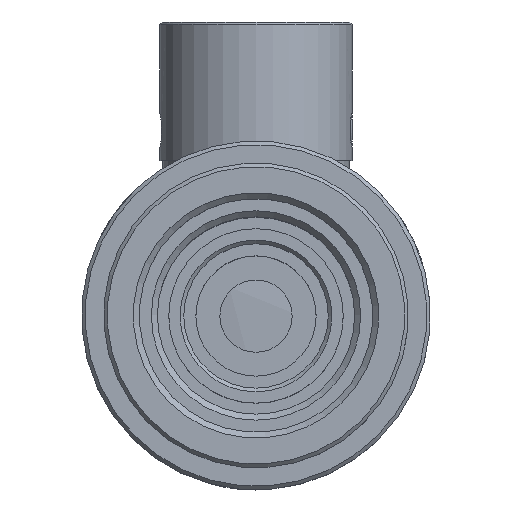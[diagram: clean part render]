
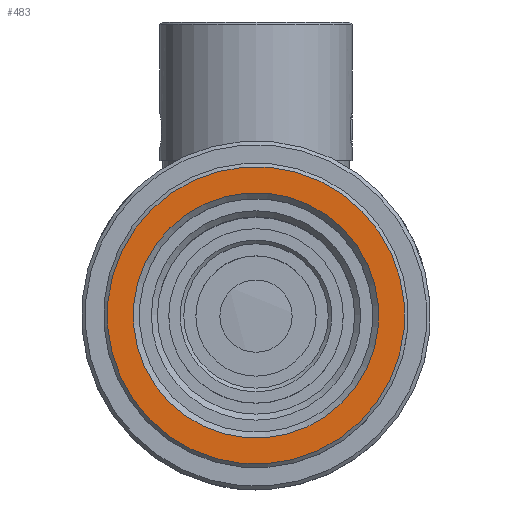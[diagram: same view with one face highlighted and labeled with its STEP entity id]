
A CAD part, top view. The second image highlights one B-rep face of the part: STEP entity #483.
In plain terms, the highlighted planar face has unit normal (0, 0, 1).
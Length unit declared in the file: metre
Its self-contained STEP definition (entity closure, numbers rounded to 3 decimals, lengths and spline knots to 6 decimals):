
#483=ADVANCED_FACE('1:6012',(#1322,#1323),#1324,.F.);
#1322=FACE_BOUND('',#2777,.T.);
#1323=FACE_OUTER_BOUND('',#2778,.T.);
#1324=PLANE('',#2779);
#2777=EDGE_LOOP('',(#4216));
#2778=EDGE_LOOP('',(#4217));
#2779=AXIS2_PLACEMENT_3D('',#4218,#4219,#4220);
#4216=ORIENTED_EDGE('',*,*,#6864,.T.);
#4217=ORIENTED_EDGE('',*,*,#6862,.T.);
#4218=CARTESIAN_POINT('',(0.001079,0.012614,-0.00983));
#4219=DIRECTION('',(0.,0.,-1.0));
#4220=DIRECTION('',(-1.,-0.01,0.));
#6862=EDGE_CURVE('1:6153',#7967,#7967,#7968,.T.);
#6864=EDGE_CURVE('1:6144',#7970,#7970,#7971,.T.);
#7967=VERTEX_POINT('',#9806);
#7968=CIRCLE('',#9807,0.01236);
#7970=VERTEX_POINT('',#9809);
#7971=CIRCLE('',#9810,0.0102);
#9806=CARTESIAN_POINT('',(-0.012316,0.001054,-0.00983));
#9807=AXIS2_PLACEMENT_3D('',#12415,#12416,#12417);
#9809=CARTESIAN_POINT('',(-0.010164,0.00087,-0.00983));
#9810=AXIS2_PLACEMENT_3D('',#12418,#12419,#12420);
#12415=CARTESIAN_POINT('',(-0.000001,0.,-0.00983));
#12416=DIRECTION('',(0.,0.,1.0));
#12417=DIRECTION('',(-0.996,0.085,0.));
#12418=CARTESIAN_POINT('',(-0.000001,0.,-0.00983));
#12419=DIRECTION('',(0.,0.,-1.0));
#12420=DIRECTION('',(-0.996,0.085,0.));
